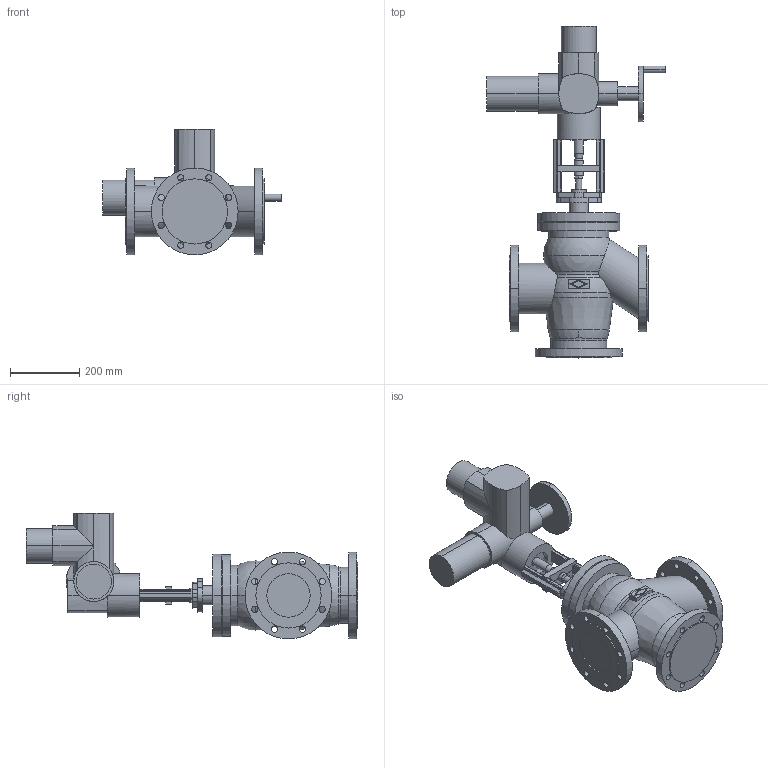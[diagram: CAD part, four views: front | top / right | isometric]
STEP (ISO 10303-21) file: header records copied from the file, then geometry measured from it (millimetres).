
FILE_DESCRIPTION(('OneSpaceDesigner STEP Export'),'2;1');
FILE_NAME('c000003157.stp','2007-01-26T12:34:36',(''),(''),'OneSpace Designer STEP processor for AP214 (Solid Model)','OneSpace Designer 14.00B 27-May-2006 (C) CoCreate Software GmbH','');
FILE_SCHEMA(('AUTOMOTIVE_DESIGN { 1 0 10303 214 1 1 1 1 }'));
Length unit declared in the file: millimetre
Products named in the file (2): 1; 2
Bounding box: 514 x 956 x 362 mm (x, y, z)
Volume: 27011178.8 mm3; surface area: 1194777.9 mm2
Topology: 2 solids, 2 shells, 318 faces, 828 edges, 524 vertices
Faces by surface type: cylinder 162, plane 134, torus 8, sphere 8, cone 6
Entity records: 9291 total; most frequent: CARTESIAN_POINT 2078, ORIENTED_EDGE 1640, DIRECTION 1322, EDGE_CURVE 820, VERTEX_POINT 524, AXIS2_PLACEMENT_3D 461, VECTOR 400, LINE 400
